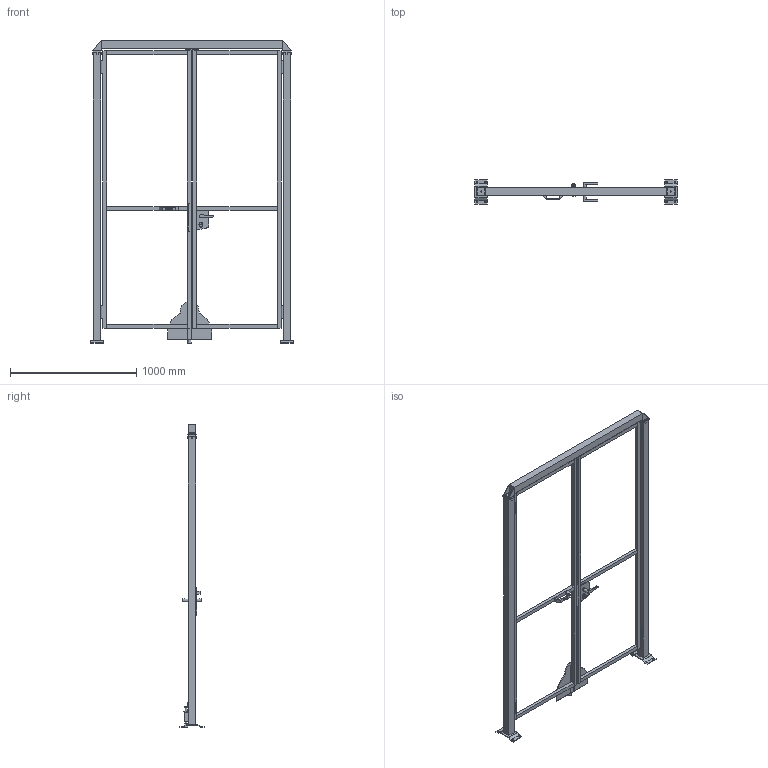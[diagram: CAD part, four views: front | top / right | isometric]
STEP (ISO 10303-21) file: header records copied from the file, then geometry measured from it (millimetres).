
FILE_DESCRIPTION(/* description */ (''),/* implementation_level */ '2;1');
FILE_NAME(/* name */ 'C:\SafeGuarding\ELABORATI\VZOR§GAMMA_2025-02-03-11-17-34.stp',/* time_stamp */ '2025-02-03T11:17:38+01:00',/* author */ ('admin'),/* organization */ (''),/* preprocessor_version */ 'ST-DEVELOPER v18.1',/* originating_system */ 'AutoCAD Mechanical',/* authorisation */ '');
FILE_SCHEMA (('AUTOMOTIVE_DESIGN { 1 0 10303 214 3 1 1 }'));
Length unit declared in the file: millimetre
Products named in the file (5): Product; *U4; DATI_PORTA; P_VFMA.ME60SDU.2320; R_VFPA.REPE30.07002200
Assembly tree (6 placements, depth 2):
  Product
    R_VFPA.REPE30.07002200  x2
    P_VFMA.ME60SDU.2320  x2
    *U4
    DATI_PORTA
Bounding box: 1605 x 192 x 2400.5 mm (x, y, z)
Volume: 34948696.5 mm3; surface area: 3645886.9 mm2
Topology: 38 solids, 49 shells, 429 faces, 1311 edges, 1238 vertices
Faces by surface type: plane 353, cylinder 71, bspline 4, cone 1
Full cylindrical faces by diameter (mm): 11 x25, 14 x2, 24 x1, 25 x2, 25.398 x2
Entity records: 13144 total; most frequent: CARTESIAN_POINT 3767, DIRECTION 1838, ORIENTED_EDGE 1688, EDGE_CURVE 893, LINE 744, VECTOR 744, VERTEX_POINT 632, AXIS2_PLACEMENT_3D 547
